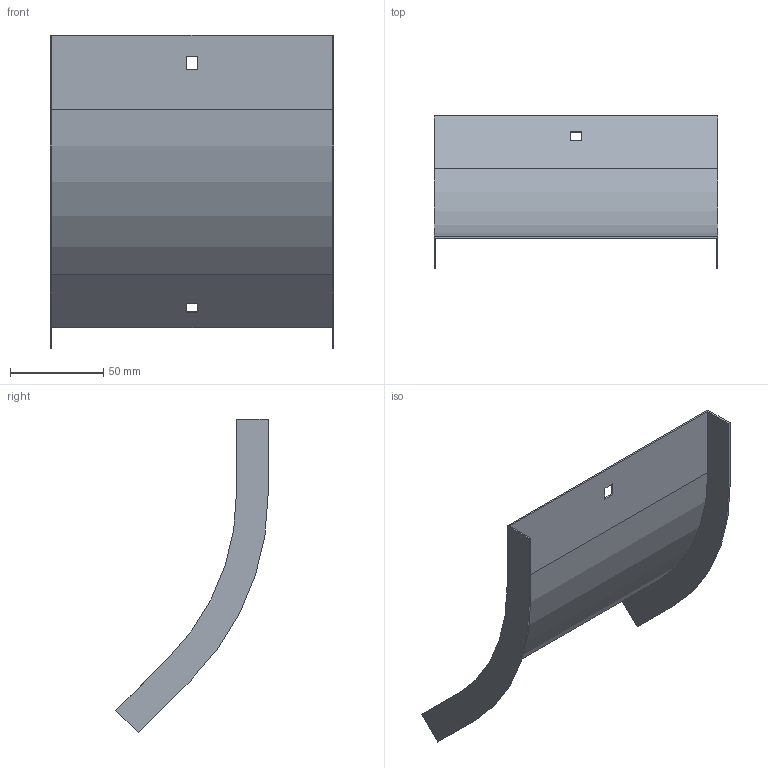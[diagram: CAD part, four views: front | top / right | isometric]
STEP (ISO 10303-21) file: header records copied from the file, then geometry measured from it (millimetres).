
FILE_DESCRIPTION (( 'STEP AP214' ), '1' );
FILE_NAME ('OS4_150.step', '2025-07-16T09:16:29', ( '' ), ( '' ), 'SwSTEP 2.0', 'SolidWorks 2023', '' );
FILE_SCHEMA (( 'AUTOMOTIVE_DESIGN' ));
Length unit declared in the file: millimetre
Products named in the file (1): OS4_150
Bounding box: 152 x 81.6 x 167.99 mm (x, y, z)
Volume: 32841.5 mm3; surface area: 66483.8 mm2
Topology: 1 solids, 1 shells, 26 faces, 72 edges, 48 vertices
Faces by surface type: plane 22, cylinder 4
Entity records: 855 total; most frequent: CARTESIAN_POINT 147, ORIENTED_EDGE 144, DIRECTION 134, EDGE_CURVE 72, VECTOR 64, LINE 64, VERTEX_POINT 48, AXIS2_PLACEMENT_3D 35
